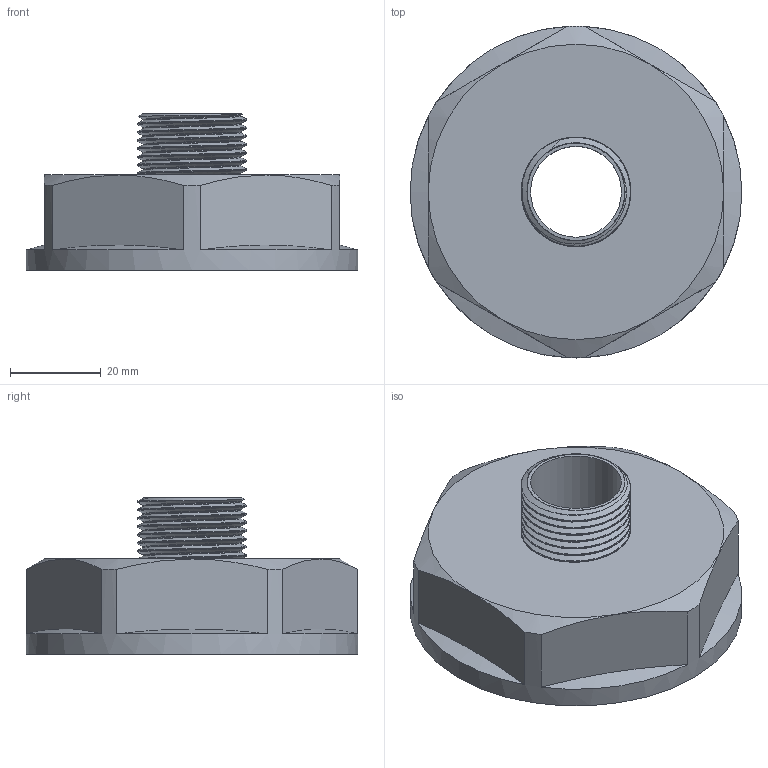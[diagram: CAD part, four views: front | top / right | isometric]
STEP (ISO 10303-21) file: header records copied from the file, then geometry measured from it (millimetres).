
FILE_DESCRIPTION(/* description */ (''),/* implementation_level */ '2;1');
FILE_NAME(/* name */ 'C:\Users\Doom\Desktop\Фадотех\Резьба\P09 18.03.2020\P09 18.03.2020.stp',/* time_stamp */ '2022-01-12T22:53:25+02:00',/* author */ ('Doom'),/* organization */ (''),/* preprocessor_version */ 'ST-DEVELOPER v18',/* originating_system */ 'Autodesk Inventor 2020',/* authorisation */ '');
FILE_SCHEMA (('AUTOMOTIVE_DESIGN { 1 0 10303 214 3 1 1 }'));
Length unit declared in the file: millimetre
Products named in the file (1): P09 18.03.2020
Bounding box: 73 x 73 x 34.5 mm (x, y, z)
Volume: 31824.3 mm3; surface area: 29837.3 mm2
Topology: 3 solids, 3 shells, 63 faces, 180 edges, 123 vertices
Faces by surface type: cylinder 22, cone 15, plane 14, bspline 12
Full cylindrical faces by diameter (mm): 20 x1, 21.42 x2, 24.11 x6, 56.176 x6, 59.6 x2, 73 x1
Entity records: 10754 total; most frequent: CARTESIAN_POINT 9265, ORIENTED_EDGE 352, DIRECTION 235, EDGE_CURVE 176, VERTEX_POINT 121, AXIS2_PLACEMENT_3D 101, EDGE_LOOP 71, B_SPLINE_CURVE_WITH_KNOTS 70
